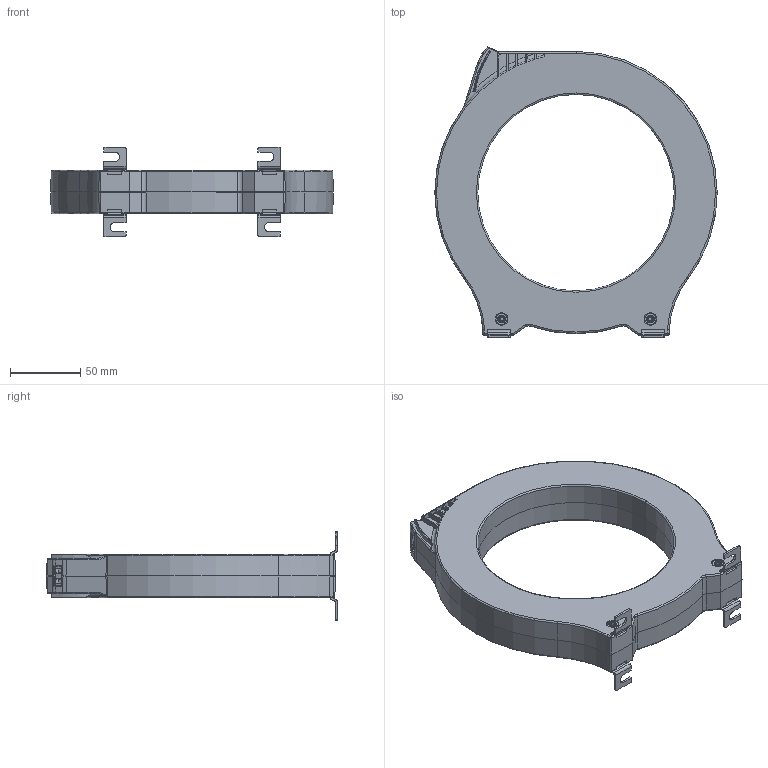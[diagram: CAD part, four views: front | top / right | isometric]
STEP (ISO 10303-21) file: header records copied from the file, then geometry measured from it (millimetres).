
FILE_DESCRIPTION((''),'2;1');
FILE_NAME('WGC140','2019-01-10T',('esors'),(''),'CREO PARAMETRIC BY PTC INC, 2015290','CREO PARAMETRIC BY PTC INC, 2015290','');
FILE_SCHEMA(('AUTOMOTIVE_DESIGN { 1 0 10303 214 1 1 1 1 }'));
Length unit declared in the file: millimetre
Products named in the file (1): WGC140
Bounding box: 201.22 x 207.01 x 64 mm (x, y, z)
Surface area: 74905.2 mm2 (no closed solid volume)
Topology: 0 solids, 12 shells, 436 faces, 1244 edges, 822 vertices
Faces by surface type: plane 186, cylinder 110, cone 52, torus 48, bspline 36, sphere 4
Entity records: 18467 total; most frequent: CARTESIAN_POINT 5993, ORIENTED_EDGE 2215, DIRECTION 2053, COLOUR_RGB 1577, EDGE_CURVE 1236, VERTEX_POINT 822, AXIS2_PLACEMENT_3D 707, VECTOR 639
